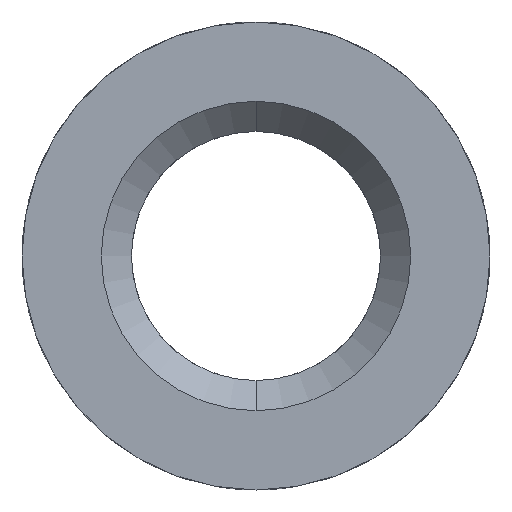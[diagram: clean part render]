
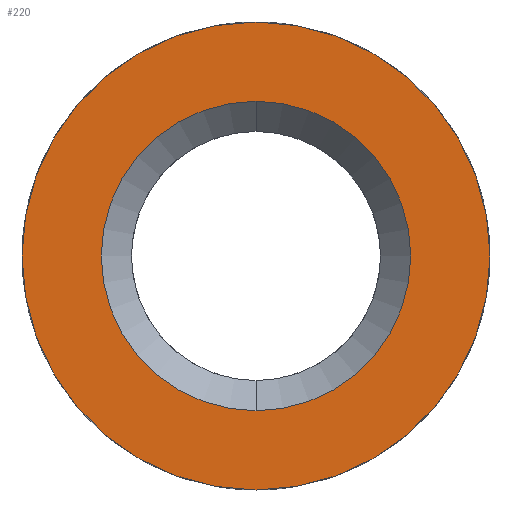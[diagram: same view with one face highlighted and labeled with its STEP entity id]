
A CAD part, left-side view. The second image highlights one B-rep face of the part: STEP entity #220.
In plain terms, the highlighted planar face has unit normal (-1, 0, 0).
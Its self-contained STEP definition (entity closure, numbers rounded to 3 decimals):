
#4 = DIRECTION ( 'NONE',  ( 0., 0., 1. ) ) ;
#133 = EDGE_CURVE ( 'NONE', #872, #2088, #1239, .T. ) ;
#220 = ADVANCED_FACE ( 'NONE', ( #1574, #1619 ), #973, .T. ) ;
#284 = CIRCLE ( 'NONE', #853, 2.05 ) ;
#286 = AXIS2_PLACEMENT_3D ( 'NONE', #2378, #799, #2564 ) ;
#513 = DIRECTION ( 'NONE',  ( 1., 0., 0. ) ) ;
#592 = DIRECTION ( 'NONE',  ( 1., 0., 0. ) ) ;
#738 = EDGE_LOOP ( 'NONE', ( #2262, #1481 ) ) ;
#755 = VERTEX_POINT ( 'NONE', #2079 ) ;
#797 = CARTESIAN_POINT ( 'NONE',  ( -8.2, 0., 0. ) ) ;
#799 = DIRECTION ( 'NONE',  ( -1., 0., 0. ) ) ;
#853 = AXIS2_PLACEMENT_3D ( 'NONE', #1727, #927, #2298 ) ;
#872 = VERTEX_POINT ( 'NONE', #1087 ) ;
#927 = DIRECTION ( 'NONE',  ( 1., 0., 0. ) ) ;
#973 = PLANE ( 'NONE',  #286 ) ;
#1087 = CARTESIAN_POINT ( 'NONE',  ( -8.2, 0., 3.1 ) ) ;
#1136 = CARTESIAN_POINT ( 'NONE',  ( -8.2, 0., 2.05 ) ) ;
#1225 = EDGE_CURVE ( 'NONE', #2159, #755, #284, .T. ) ;
#1239 = CIRCLE ( 'NONE', #2131, 3.1 ) ;
#1317 = EDGE_LOOP ( 'NONE', ( #1997, #1594 ) ) ;
#1330 = CARTESIAN_POINT ( 'NONE',  ( -8.2, 0., 0. ) ) ;
#1332 = DIRECTION ( 'NONE',  ( 0., 0., -1. ) ) ;
#1460 = CIRCLE ( 'NONE', #1502, 3.1 ) ;
#1481 = ORIENTED_EDGE ( 'NONE', *, *, #1685, .T. ) ;
#1500 = DIRECTION ( 'NONE',  ( 0., 0., -1. ) ) ;
#1502 = AXIS2_PLACEMENT_3D ( 'NONE', #2541, #1782, #1332 ) ;
#1574 = FACE_BOUND ( 'NONE', #738, .T. ) ;
#1594 = ORIENTED_EDGE ( 'NONE', *, *, #133, .F. ) ;
#1619 = FACE_OUTER_BOUND ( 'NONE', #1317, .T. ) ;
#1685 = EDGE_CURVE ( 'NONE', #755, #2159, #2105, .T. ) ;
#1727 = CARTESIAN_POINT ( 'NONE',  ( -8.2, 0., 0. ) ) ;
#1782 = DIRECTION ( 'NONE',  ( 1., 0., 0. ) ) ;
#1842 = AXIS2_PLACEMENT_3D ( 'NONE', #797, #592, #4 ) ;
#1997 = ORIENTED_EDGE ( 'NONE', *, *, #2161, .F. ) ;
#2079 = CARTESIAN_POINT ( 'NONE',  ( -8.2, 0., -2.05 ) ) ;
#2088 = VERTEX_POINT ( 'NONE', #2321 ) ;
#2105 = CIRCLE ( 'NONE', #1842, 2.05 ) ;
#2131 = AXIS2_PLACEMENT_3D ( 'NONE', #1330, #513, #1500 ) ;
#2159 = VERTEX_POINT ( 'NONE', #1136 ) ;
#2161 = EDGE_CURVE ( 'NONE', #2088, #872, #1460, .T. ) ;
#2262 = ORIENTED_EDGE ( 'NONE', *, *, #1225, .T. ) ;
#2298 = DIRECTION ( 'NONE',  ( 0., 0., 1. ) ) ;
#2321 = CARTESIAN_POINT ( 'NONE',  ( -8.2, 0., -3.1 ) ) ;
#2378 = CARTESIAN_POINT ( 'NONE',  ( -8.2, 1.65, 0. ) ) ;
#2541 = CARTESIAN_POINT ( 'NONE',  ( -8.2, 0., 0. ) ) ;
#2564 = DIRECTION ( 'NONE',  ( 0., 0., 1. ) ) ;
